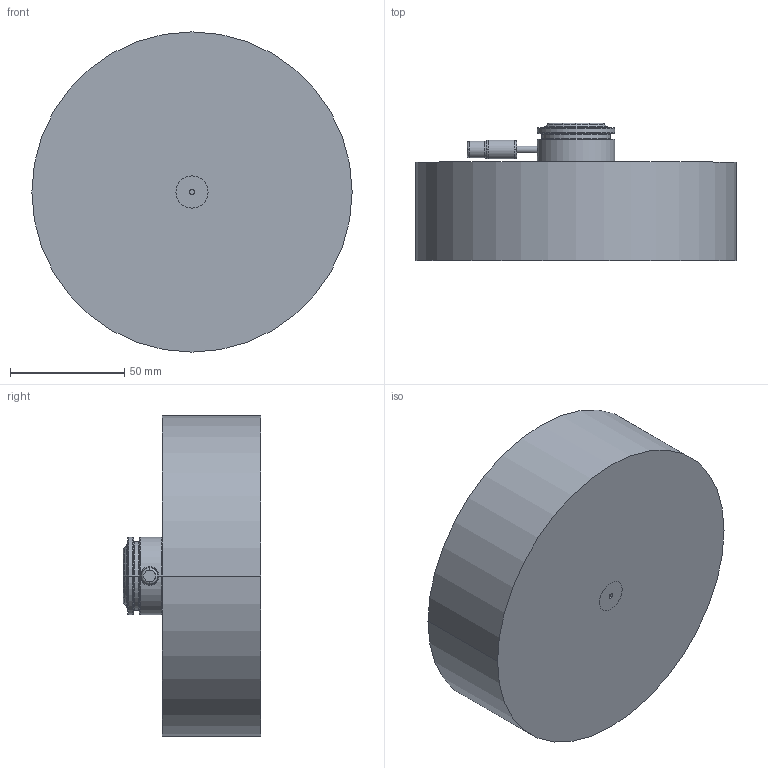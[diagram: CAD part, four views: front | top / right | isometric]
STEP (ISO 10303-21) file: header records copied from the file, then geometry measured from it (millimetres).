
FILE_DESCRIPTION((''),'2;1');
FILE_NAME('M34N102.stp','2020-09-17T12:51:47',(''),(''),'AutoCAD STEP 2000i','AutoCAD 2000i',', , ');
FILE_SCHEMA(('CONFIG_CONTROL_DESIGN'));
Length unit declared in the file: millimetre
Products named in the file (3): DRAWING1; NOZZLE M102N34; MOLD BODY N M 34
Assembly tree (2 placements, depth 2):
  DRAWING1
    NOZZLE M102N34
    MOLD BODY N M 34
Bounding box: 140 x 60 x 140 mm (x, y, z)
Volume: 672845.7 mm3; surface area: 59877.8 mm2
Topology: 2 solids, 2 shells, 107 faces, 253 edges, 161 vertices
Faces by surface type: cone 32, cylinder 32, plane 17, bspline 14, torus 12
Entity records: 3760 total; most frequent: CARTESIAN_POINT 1063, DIRECTION 621, ORIENTED_EDGE 502, AXIS2_PLACEMENT_3D 277, EDGE_CURVE 251, CIRCLE 181, VERTEX_POINT 161, EDGE_LOOP 122
